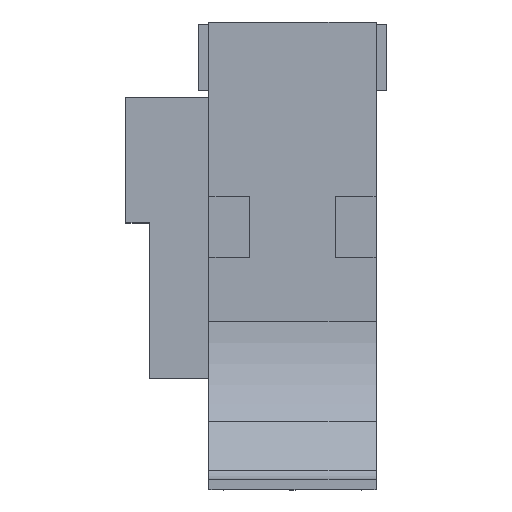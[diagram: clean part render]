
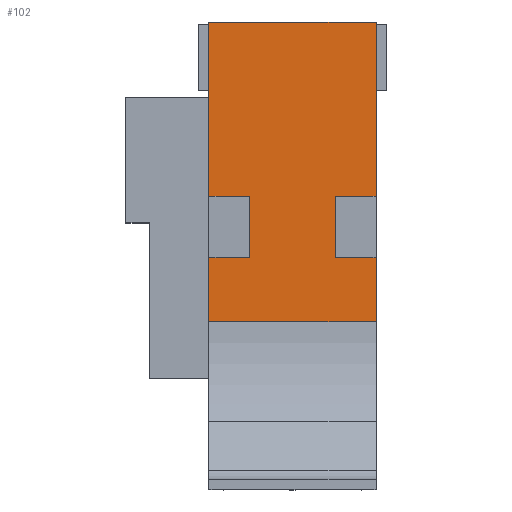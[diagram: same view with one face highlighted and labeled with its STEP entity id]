
A CAD part, top view. The second image highlights one B-rep face of the part: STEP entity #102.
In plain terms, the highlighted planar face has unit normal (0, 0, 1).
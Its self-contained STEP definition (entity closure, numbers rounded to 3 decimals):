
#102=ADVANCED_FACE('',(#1641),#1643,.F.);
#1641=FACE_BOUND('',#1642,.T.);
#1642=EDGE_LOOP('',(#3403,#3404,#3405,#3406,#3407,#3408,#3409,#3410,#3411,#3412,
#3413,#3414));
#1643=PLANE('',#1644);
#1644=AXIS2_PLACEMENT_3D('',#1645,#1646,#1647);
#1645=CARTESIAN_POINT('',(-7.006,-36.11,25.992));
#1646=DIRECTION('',(0.,0.,-1.));
#1647=DIRECTION('',(0.,-1.,0.));
#3403=ORIENTED_EDGE('',*,*,#4196,.F.);
#3404=ORIENTED_EDGE('',*,*,#4197,.F.);
#3405=ORIENTED_EDGE('',*,*,#4198,.F.);
#3406=ORIENTED_EDGE('',*,*,#4199,.F.);
#3407=ORIENTED_EDGE('',*,*,#4200,.F.);
#3408=ORIENTED_EDGE('',*,*,#4201,.F.);
#3409=ORIENTED_EDGE('',*,*,#4202,.F.);
#3410=ORIENTED_EDGE('',*,*,#4178,.F.);
#3411=ORIENTED_EDGE('',*,*,#4203,.F.);
#3412=ORIENTED_EDGE('',*,*,#4204,.F.);
#3413=ORIENTED_EDGE('',*,*,#4205,.F.);
#3414=ORIENTED_EDGE('',*,*,#4183,.F.);
#4178=EDGE_CURVE('',#4576,#4577,#4578,.F.);
#4183=EDGE_CURVE('',#4586,#4587,#4588,.F.);
#4196=EDGE_CURVE('',#4612,#4586,#4613,.F.);
#4197=EDGE_CURVE('',#4614,#4612,#4615,.T.);
#4198=EDGE_CURVE('',#4616,#4614,#4617,.T.);
#4199=EDGE_CURVE('',#4618,#4616,#4619,.F.);
#4200=EDGE_CURVE('',#4620,#4618,#4621,.T.);
#4201=EDGE_CURVE('',#4622,#4620,#4623,.T.);
#4202=EDGE_CURVE('',#4577,#4622,#4624,.F.);
#4203=EDGE_CURVE('',#4625,#4576,#4626,.T.);
#4204=EDGE_CURVE('',#4627,#4625,#4628,.T.);
#4205=EDGE_CURVE('',#4587,#4627,#4629,.T.);
#4576=VERTEX_POINT('',#5244);
#4577=VERTEX_POINT('',#5245);
#4578=LINE('',#5246,#5247);
#4586=VERTEX_POINT('',#5265);
#4587=VERTEX_POINT('',#5266);
#4588=LINE('',#5267,#5268);
#4612=VERTEX_POINT('',#5322);
#4613=LINE('',#5323,#5324);
#4614=VERTEX_POINT('',#5326);
#4615=LINE('',#5327,#5328);
#4616=VERTEX_POINT('',#5330);
#4617=LINE('',#5331,#5332);
#4618=VERTEX_POINT('',#5334);
#4619=LINE('',#5335,#5336);
#4620=VERTEX_POINT('',#5338);
#4621=LINE('',#5339,#5340);
#4622=VERTEX_POINT('',#5342);
#4623=LINE('',#5343,#5344);
#4624=LINE('',#5346,#5347);
#4625=VERTEX_POINT('',#5349);
#4626=LINE('',#5350,#5351);
#4627=VERTEX_POINT('',#5353);
#4628=LINE('',#5354,#5355);
#4629=LINE('',#5357,#5358);
#5244=CARTESIAN_POINT('',(16.392,-34.196,25.992));
#5245=CARTESIAN_POINT('',(8.392,-34.196,25.992));
#5246=CARTESIAN_POINT('',(8.392,-34.196,25.992));
#5247=VECTOR('',#5248,1.);
#5248=DIRECTION('',(1.,0.,0.));
#5265=CARTESIAN_POINT('',(-8.392,-34.196,25.992));
#5266=CARTESIAN_POINT('',(-16.392,-34.196,25.992));
#5267=CARTESIAN_POINT('',(-16.392,-34.196,25.992));
#5268=VECTOR('',#5269,1.);
#5269=DIRECTION('',(1.,0.,0.));
#5322=CARTESIAN_POINT('',(-8.392,-46.196,25.992));
#5323=CARTESIAN_POINT('',(-8.392,-34.196,25.992));
#5324=VECTOR('',#5325,1.);
#5325=DIRECTION('',(0.,-1.,0.));
#5326=CARTESIAN_POINT('',(-16.392,-46.196,25.992));
#5327=CARTESIAN_POINT('',(-16.392,-46.196,25.992));
#5328=VECTOR('',#5329,1.);
#5329=DIRECTION('',(1.,0.,0.));
#5330=CARTESIAN_POINT('',(-16.392,-58.766,25.992));
#5331=CARTESIAN_POINT('',(-16.392,-58.766,25.992));
#5332=VECTOR('',#5333,1.);
#5333=DIRECTION('',(0.,1.,0.));
#5334=CARTESIAN_POINT('',(16.392,-58.766,25.992));
#5335=CARTESIAN_POINT('',(-16.392,-58.766,25.992));
#5336=VECTOR('',#5337,1.);
#5337=DIRECTION('',(1.,0.,0.));
#5338=CARTESIAN_POINT('',(16.392,-46.196,25.992));
#5339=CARTESIAN_POINT('',(16.392,-46.196,25.992));
#5340=VECTOR('',#5341,1.);
#5341=DIRECTION('',(0.,-1.,0.));
#5342=CARTESIAN_POINT('',(8.392,-46.196,25.992));
#5343=CARTESIAN_POINT('',(8.392,-46.196,25.992));
#5344=VECTOR('',#5345,1.);
#5345=DIRECTION('',(1.,0.,0.));
#5346=CARTESIAN_POINT('',(8.392,-46.196,25.992));
#5347=VECTOR('',#5348,1.);
#5348=DIRECTION('',(0.,1.,0.));
#5349=CARTESIAN_POINT('',(16.392,0.,25.992));
#5350=CARTESIAN_POINT('',(16.392,0.,25.992));
#5351=VECTOR('',#5352,1.);
#5352=DIRECTION('',(0.,-1.,0.));
#5353=CARTESIAN_POINT('',(-16.392,0.,25.992));
#5354=CARTESIAN_POINT('',(-16.392,0.,25.992));
#5355=VECTOR('',#5356,1.);
#5356=DIRECTION('',(1.,0.,0.));
#5357=CARTESIAN_POINT('',(-16.392,-34.196,25.992));
#5358=VECTOR('',#5359,1.);
#5359=DIRECTION('',(0.,1.,0.));
